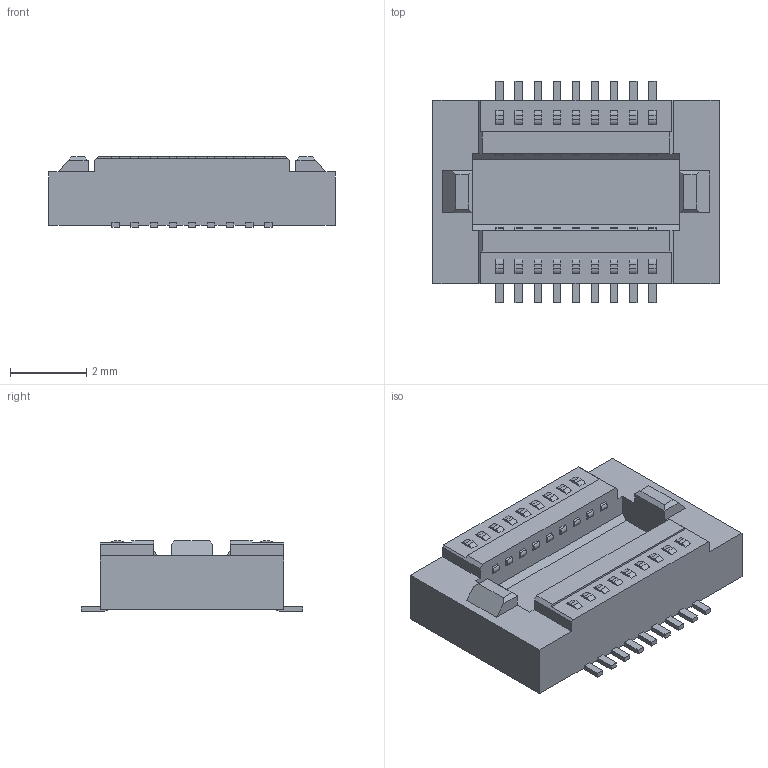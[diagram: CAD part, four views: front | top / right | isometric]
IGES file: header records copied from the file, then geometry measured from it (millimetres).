
Start section:  PTC IGES file: btb-axk5f18545_prt.igs
Global section: file name: btb-axk5f18545_prt.igs; native system: Pro/ENGINEER by Parametric Technology Corporation; preprocessor: 2006170; author: GRA; organization: Unknown; date: 20080630.105138; units: millimetre
Bounding box: 7.5 x 5.8 x 1.85 mm (x, y, z)
Surface area: 135.2 mm2 (no closed solid volume)
Topology: 0 solids, 0 shells, 330 faces, 1744 edges, 1744 vertices
Faces by surface type: bspline 240, revolution 90
